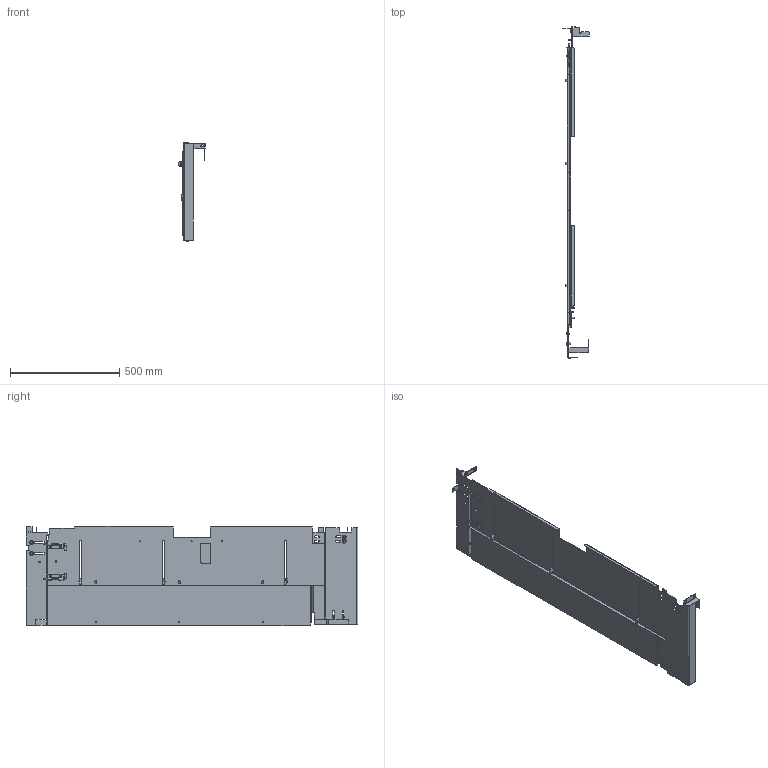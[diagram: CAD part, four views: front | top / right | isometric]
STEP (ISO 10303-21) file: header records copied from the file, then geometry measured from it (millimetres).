
FILE_DESCRIPTION (( 'STEP AP203' ), '1' );
FILE_NAME ('a60bp18.STEP', '2019-08-07T20:22:12', ( '' ), ( '' ), 'SwSTEP 2.0', 'SolidWorks 2016', '' );
FILE_SCHEMA (( 'CONFIG_CONTROL_DESIGN' ));
Length unit declared in the file: inch
Products named in the file (27): 89172231; 89172240_Solid bracket; 45129001_45129001; 87791796_no threads; 89172241; 99401301_B18.21.2M-External Tooth Lock Washers_AM6; 89172237_MAIN PNL; 87780048; 89172238_Solid bracket; 89172384_87920449; 99404044_99404044; a60bp18; 89172239; 89090813; 99404177_Config-Drawing; 89172230; 87932084_91831A411; 89172389; 89172229; 87800105_87800105; 89172236; 11158977; 87800103_87800103; 99415120_99415120; 89172361_Flexible; 89172422_FLEXIBLE; 89172364
Assembly tree (49 placements, depth 4):
  a60bp18
    89172422_FLEXIBLE
      89172389
        89172237_MAIN PNL
        99404044_99404044  x4
        99404177_Config-Drawing
      89172364
        89172236
        99415120_99415120  x3
        99404177_Config-Drawing
      45129001_45129001  x3
      99401301_B18.21.2M-External Tooth Lock Washers_AM6  x3
      89172384_87920449  x2
      89090813  x2
      87932084_91831A411  x4
      87800105_87800105  x2
      87800103_87800103  x2
    89172241
      89172240_Solid bracket
      99404177_Config-Drawing
    89172239
      89172238_Solid bracket
      99404177_Config-Drawing
    89172230
    89172229
    89172361_Flexible
      11158977  x4
    89172231
    87791796_no threads  x2
    87780048
Bounding box: 119.63 x 1519.17 x 455.41 mm (x, y, z)
Volume: 1593657.6 mm3; surface area: 1692672.8 mm2
Topology: 47 solids, 47 shells, 2995 faces, 7636 edges, 4779 vertices
Faces by surface type: plane 1477, cylinder 957, cone 359, bspline 112, torus 90
Entity records: 52128 total; most frequent: CARTESIAN_POINT 14622, DIRECTION 7229, ORIENTED_EDGE 7112, EDGE_CURVE 3556, AXIS2_PLACEMENT_3D 2607, VERTEX_POINT 2238, VECTOR 2015, LINE 2015
